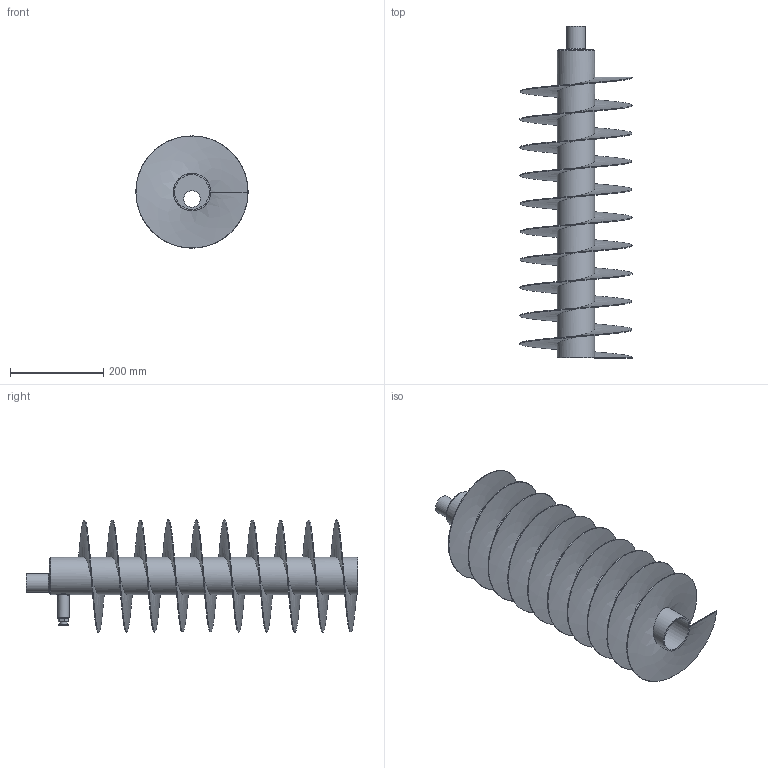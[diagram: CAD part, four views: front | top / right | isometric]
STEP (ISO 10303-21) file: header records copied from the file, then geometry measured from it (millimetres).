
FILE_DESCRIPTION(/* description */ ('Alibre Inc.'),/* implementation_level */ '2;1');
FILE_NAME(/* name */ 'export0',/* time_stamp */ '2010-03-31T23:39:23+02:00',/* author */ (''),/* organization */ (''),/* preprocessor_version */ 'ST-DEVELOPER v10',/* originating_system */ 'Alibre',/* authorisation */ '');
FILE_SCHEMA (('ALIBRE_SCHEMA','CONFIG_CONTROL_DESIGN'));
Length unit declared in the file: centimetre
Products named in the file (1): ID_1
Bounding box: 240 x 710.75 x 239.99 mm (x, y, z)
Volume: 1155979.7 mm3; surface area: 1166190.9 mm2
Topology: 2 solids, 2 shells, 59 faces, 149 edges, 94 vertices
Faces by surface type: plane 28, cylinder 22, torus 4, bspline 3, cone 2
Full cylindrical faces by diameter (mm): 10 x1, 16 x1, 21 x1, 22 x1, 25 x1, 35 x1, 40 x1, 74 x1, 80 x10
Entity records: 6590 total; most frequent: CARTESIAN_POINT 3923, DIRECTION 234, ORIENTED_EDGE 202, PERSISTANTTOPOLOGYATTRIBUTE 168, REFERENCEDEPENDENTUV 137, CONSTRAINTPAIRUV 115, VECTOR 111, EDGE_CURVE 101
